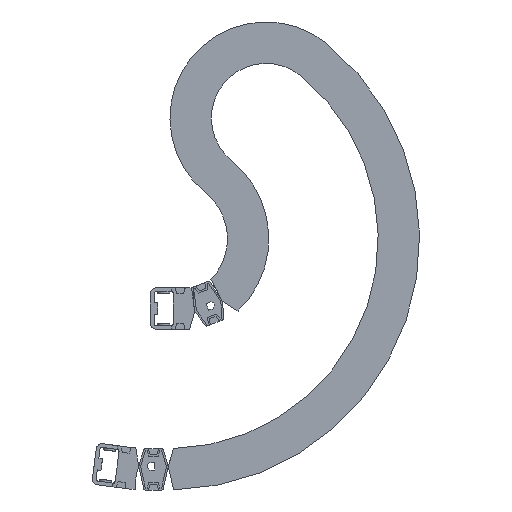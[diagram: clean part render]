
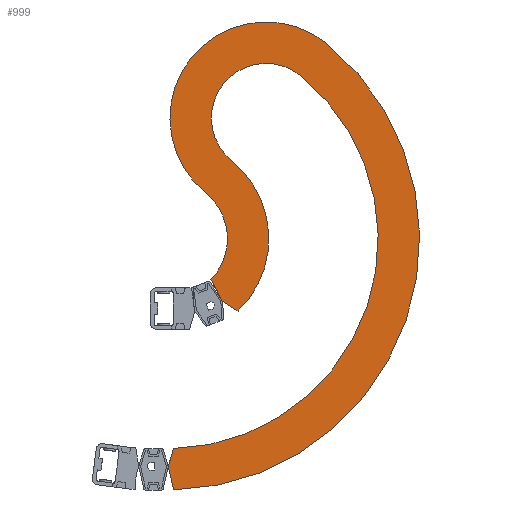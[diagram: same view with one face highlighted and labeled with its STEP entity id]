
A CAD part, front view. The second image highlights one B-rep face of the part: STEP entity #999.
In plain terms, the highlighted planar face has unit normal (0, -1, 0).
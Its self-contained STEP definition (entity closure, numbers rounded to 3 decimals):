
#999 = ADVANCED_FACE( '', ( #1984 ), #1985, .F. );
#1984 = FACE_OUTER_BOUND( '', #2954, .T. );
#1985 = PLANE( '', #2955 );
#2954 = EDGE_LOOP( '', ( #5846, #5847, #5848, #5849, #5850, #5851, #5852, #5853, #5854, #5855 ) );
#2955 = AXIS2_PLACEMENT_3D( '', #5856, #5857, #5858 );
#5846 = ORIENTED_EDGE( '', *, *, #7174, .F. );
#5847 = ORIENTED_EDGE( '', *, *, #7186, .F. );
#5848 = ORIENTED_EDGE( '', *, *, #7103, .F. );
#5849 = ORIENTED_EDGE( '', *, *, #6968, .T. );
#5850 = ORIENTED_EDGE( '', *, *, #6842, .F. );
#5851 = ORIENTED_EDGE( '', *, *, #6836, .F. );
#5852 = ORIENTED_EDGE( '', *, *, #6424, .F. );
#5853 = ORIENTED_EDGE( '', *, *, #6687, .T. );
#5854 = ORIENTED_EDGE( '', *, *, #7169, .T. );
#5855 = ORIENTED_EDGE( '', *, *, #6997, .F. );
#5856 = CARTESIAN_POINT( '', ( 0., -15., 0. ) );
#5857 = DIRECTION( '', ( 0., 1., 0. ) );
#5858 = DIRECTION( '', ( 0., 0., 1. ) );
#6424 = EDGE_CURVE( '', #7912, #7913, #7914, .T. );
#6687 = EDGE_CURVE( '', #7912, #8322, #8323, .T. );
#6836 = EDGE_CURVE( '', #7913, #8534, #8535, .T. );
#6842 = EDGE_CURVE( '', #8534, #8542, #8543, .T. );
#6968 = EDGE_CURVE( '', #8703, #8542, #8704, .T. );
#6997 = EDGE_CURVE( '', #8742, #8744, #8745, .T. );
#7103 = EDGE_CURVE( '', #8703, #8869, #8870, .T. );
#7169 = EDGE_CURVE( '', #8322, #8744, #8938, .T. );
#7174 = EDGE_CURVE( '', #8942, #8742, #8944, .T. );
#7186 = EDGE_CURVE( '', #8869, #8942, #8956, .T. );
#7912 = VERTEX_POINT( '', #9971 );
#7913 = VERTEX_POINT( '', #9972 );
#7914 = CIRCLE( '', #9973, 68. );
#8322 = VERTEX_POINT( '', #10558 );
#8323 = CIRCLE( '', #10559, 37. );
#8534 = VERTEX_POINT( '', #10865 );
#8535 = LINE( '', #10866, #10867 );
#8542 = VERTEX_POINT( '', #10878 );
#8543 = LINE( '', #10879, #10880 );
#8703 = VERTEX_POINT( '', #11114 );
#8704 = CIRCLE( '', #11115, 40. );
#8742 = VERTEX_POINT( '', #11171 );
#8744 = VERTEX_POINT( '', #11174 );
#8745 = LINE( '', #11175, #11176 );
#8869 = VERTEX_POINT( '', #11351 );
#8870 = CIRCLE( '', #11352, 65. );
#8938 = CIRCLE( '', #11443, 142. );
#8942 = VERTEX_POINT( '', #11447 );
#8944 = LINE( '', #11450, #11451 );
#8956 = CIRCLE( '', #11466, 170. );
#9971 = CARTESIAN_POINT( '', ( 42.821, -15., 52.824 ) );
#9972 = CARTESIAN_POINT( '', ( 47.167, -15., -48.982 ) );
#9973 = AXIS2_PLACEMENT_3D( '', #11926, #11927, #11928 );
#10558 = CARTESIAN_POINT( '', ( 89.419, -15., 110.309 ) );
#10559 = AXIS2_PLACEMENT_3D( '', #12208, #12209, #12210 );
#10865 = CARTESIAN_POINT( '', ( 36.684, -15., -42.311 ) );
#10866 = CARTESIAN_POINT( '', ( 47.167, -15., -48.982 ) );
#10867 = VECTOR( '', #12354, 1000. );
#10878 = CARTESIAN_POINT( '', ( 28.827, -15., -27.731 ) );
#10879 = CARTESIAN_POINT( '', ( 36.684, -15., -42.311 ) );
#10880 = VECTOR( '', #12359, 1000. );
#11114 = CARTESIAN_POINT( '', ( 25.189, -15., 31.073 ) );
#11115 = AXIS2_PLACEMENT_3D( '', #12479, #12480, #12481 );
#11171 = CARTESIAN_POINT( '', ( 0., -15., -154. ) );
#11174 = CARTESIAN_POINT( '', ( 3.591, -15., -141.955 ) );
#11175 = CARTESIAN_POINT( '', ( 0., -15., -154. ) );
#11176 = VECTOR( '', #12504, 1000. );
#11351 = CARTESIAN_POINT( '', ( 107.051, -15., 132.061 ) );
#11352 = AXIS2_PLACEMENT_3D( '', #12586, #12587, #12588 );
#11443 = AXIS2_PLACEMENT_3D( '', #12636, #12637, #12638 );
#11447 = CARTESIAN_POINT( '', ( 3.57, -15., -169.963 ) );
#11450 = CARTESIAN_POINT( '', ( 3.57, -15., -169.963 ) );
#11451 = VECTOR( '', #12640, 1000. );
#11466 = AXIS2_PLACEMENT_3D( '', #12647, #12648, #12649 );
#11926 = CARTESIAN_POINT( '', ( 0., -15., 0. ) );
#11927 = DIRECTION( '', ( 0., 1., 0. ) );
#11928 = DIRECTION( '', ( 1., 0., 0. ) );
#12208 = CARTESIAN_POINT( '', ( 66.12, -15., 81.567 ) );
#12209 = DIRECTION( '', ( 0., 1., 0. ) );
#12210 = DIRECTION( '', ( 1., 0., 0. ) );
#12354 = DIRECTION( '', ( -0.844, 0., 0.537 ) );
#12359 = DIRECTION( '', ( -0.474, 0., 0.88 ) );
#12479 = CARTESIAN_POINT( '', ( 0., -15., 0. ) );
#12480 = DIRECTION( '', ( 0., 1., 0. ) );
#12481 = DIRECTION( '', ( 1., 0., 0. ) );
#12504 = DIRECTION( '', ( 0.286, 0., 0.958 ) );
#12586 = CARTESIAN_POINT( '', ( 66.12, -15., 81.567 ) );
#12587 = DIRECTION( '', ( 0., 1., 0. ) );
#12588 = DIRECTION( '', ( 1., 0., 0. ) );
#12636 = CARTESIAN_POINT( '', ( 0., -15., 0. ) );
#12637 = DIRECTION( '', ( 0., 1., 0. ) );
#12638 = DIRECTION( '', ( 1., 0., 0. ) );
#12640 = DIRECTION( '', ( -0.218, 0., 0.976 ) );
#12647 = CARTESIAN_POINT( '', ( 0., -15., 0. ) );
#12648 = DIRECTION( '', ( 0., 1., 0. ) );
#12649 = DIRECTION( '', ( 1., 0., 0. ) );
